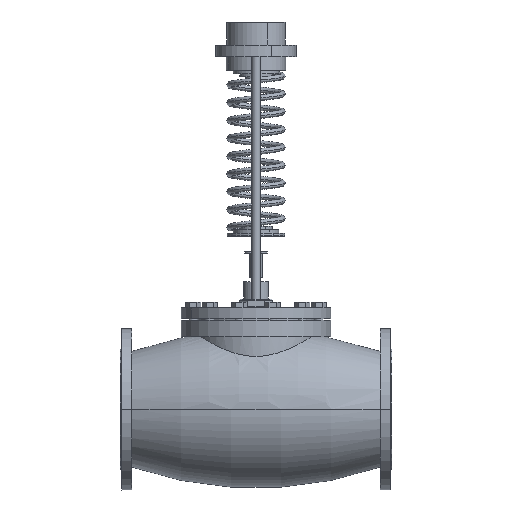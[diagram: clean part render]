
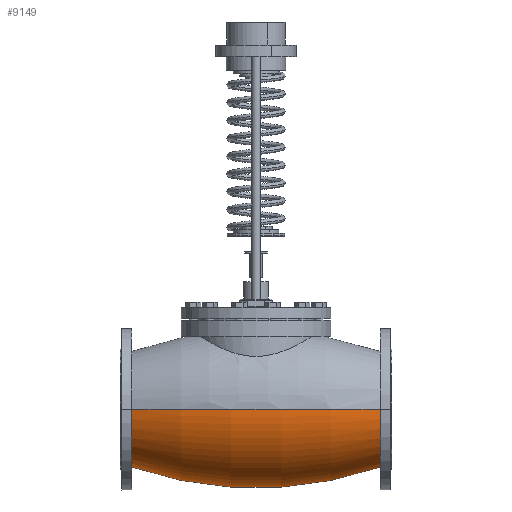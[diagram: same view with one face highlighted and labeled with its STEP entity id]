
A CAD part, left-side view. The second image highlights one B-rep face of the part: STEP entity #9149.
In plain terms, the highlighted toroidal (fillet/blend) face has major radius 528.398 mm and minor radius 667.465 mm.
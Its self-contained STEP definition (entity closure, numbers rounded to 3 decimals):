
#32 = DIRECTION ( 'NONE',  ( 0., 0., -1. ) ) ;
#718 = ORIENTED_EDGE ( 'NONE', *, *, #11562, .T. ) ;
#1011 = TOROIDAL_SURFACE ( 'NONE', #2296, -528.398, 667.465 ) ;
#1378 = EDGE_LOOP ( 'NONE', ( #718, #6697, #6401, #8613 ) ) ;
#1521 = AXIS2_PLACEMENT_3D ( 'NONE', #7783, #4872, #7721 ) ;
#1618 = CARTESIAN_POINT ( 'NONE',  ( 459.384, 0., 101.983 ) ) ;
#1776 = FACE_OUTER_BOUND ( 'NONE', #1378, .T. ) ;
#1815 = EDGE_CURVE ( 'NONE', #12764, #4540, #2733, .T. ) ;
#2261 = CARTESIAN_POINT ( 'NONE',  ( 20.616, 0., -101.983 ) ) ;
#2296 = AXIS2_PLACEMENT_3D ( 'NONE', #3846, #7897, #32 ) ;
#2462 = DIRECTION ( 'NONE',  ( 0., 1., 0. ) ) ;
#2631 = CARTESIAN_POINT ( 'NONE',  ( 459.384, 0., 0. ) ) ;
#2733 = CIRCLE ( 'NONE', #10347, 667.465 ) ;
#3174 = CARTESIAN_POINT ( 'NONE',  ( 459.384, 0., -101.983 ) ) ;
#3197 = EDGE_CURVE ( 'NONE', #5572, #6369, #6213, .T. ) ;
#3846 = CARTESIAN_POINT ( 'NONE',  ( 240., 0., 0. ) ) ;
#3980 = CIRCLE ( 'NONE', #13084, 101.983 ) ;
#4267 = DIRECTION ( 'NONE',  ( 0., 0., 1. ) ) ;
#4540 = VERTEX_POINT ( 'NONE', #2261 ) ;
#4641 = DIRECTION ( 'NONE',  ( -1., 0., 0. ) ) ;
#4872 = DIRECTION ( 'NONE',  ( 0., -1., 0. ) ) ;
#5341 = CARTESIAN_POINT ( 'NONE',  ( 240., 0., 528.398 ) ) ;
#5572 = VERTEX_POINT ( 'NONE', #1618 ) ;
#6135 = DIRECTION ( 'NONE',  ( 1., 0., 0. ) ) ;
#6213 = CIRCLE ( 'NONE', #1521, 667.465 ) ;
#6369 = VERTEX_POINT ( 'NONE', #10736 ) ;
#6401 = ORIENTED_EDGE ( 'NONE', *, *, #7989, .T. ) ;
#6697 = ORIENTED_EDGE ( 'NONE', *, *, #3197, .T. ) ;
#7381 = CARTESIAN_POINT ( 'NONE',  ( 20.616, 0., 0. ) ) ;
#7721 = DIRECTION ( 'NONE',  ( 0., 0., -1. ) ) ;
#7783 = CARTESIAN_POINT ( 'NONE',  ( 240., 0., -528.398 ) ) ;
#7897 = DIRECTION ( 'NONE',  ( -1., 0., 0. ) ) ;
#7989 = EDGE_CURVE ( 'NONE', #6369, #4540, #3980, .T. ) ;
#8365 = DIRECTION ( 'NONE',  ( 0., 0., 1. ) ) ;
#8613 = ORIENTED_EDGE ( 'NONE', *, *, #1815, .F. ) ;
#8738 = DIRECTION ( 'NONE',  ( 0., 0., 1. ) ) ;
#8923 = CIRCLE ( 'NONE', #11446, 101.983 ) ;
#9149 = ADVANCED_FACE ( 'NONE', ( #1776 ), #1011, .T. ) ;
#10347 = AXIS2_PLACEMENT_3D ( 'NONE', #5341, #2462, #4267 ) ;
#10736 = CARTESIAN_POINT ( 'NONE',  ( 20.616, 0., 101.983 ) ) ;
#11446 = AXIS2_PLACEMENT_3D ( 'NONE', #2631, #4641, #8738 ) ;
#11562 = EDGE_CURVE ( 'NONE', #12764, #5572, #8923, .T. ) ;
#12764 = VERTEX_POINT ( 'NONE', #3174 ) ;
#13084 = AXIS2_PLACEMENT_3D ( 'NONE', #7381, #6135, #8365 ) ;
